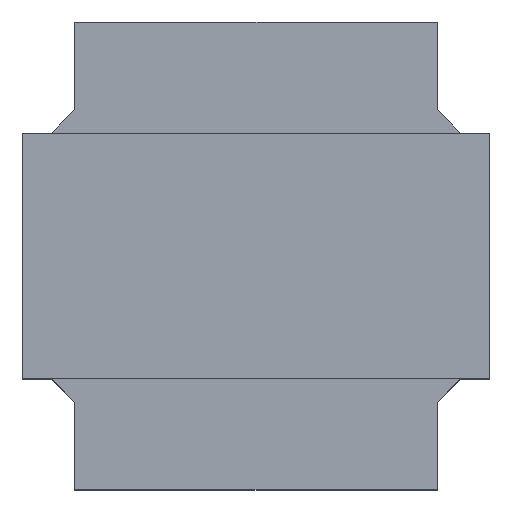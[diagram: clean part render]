
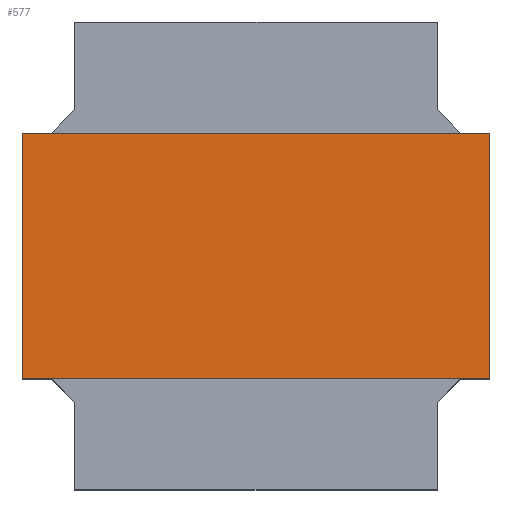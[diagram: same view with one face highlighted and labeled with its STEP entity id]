
A CAD part, top view. The second image highlights one B-rep face of the part: STEP entity #577.
In plain terms, the highlighted planar face has unit normal (0, 0, 1).
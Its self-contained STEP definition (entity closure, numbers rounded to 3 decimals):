
#1 = CARTESIAN_POINT ( 'NONE',  ( 0., 0., 1.675 ) ) ;
#24 = VERTEX_POINT ( 'NONE', #359 ) ;
#33 = DIRECTION ( 'NONE',  ( -1., 0., 0. ) ) ;
#68 = LINE ( 'NONE', #649, #608 ) ;
#83 = CARTESIAN_POINT ( 'NONE',  ( 1.55, -1.05, 1.675 ) ) ;
#89 = CARTESIAN_POINT ( 'NONE',  ( -2., 1.05, 1.675 ) ) ;
#92 = LINE ( 'NONE', #640, #628 ) ;
#101 = DIRECTION ( 'NONE',  ( 0., 0., 1. ) ) ;
#153 = EDGE_CURVE ( 'NONE', #208, #947, #92, .T. ) ;
#208 = VERTEX_POINT ( 'NONE', #1159 ) ;
#210 = VERTEX_POINT ( 'NONE', #643 ) ;
#237 = VECTOR ( 'NONE', #907, 1000. ) ;
#250 = ORIENTED_EDGE ( 'NONE', *, *, #772, .T. ) ;
#307 = DIRECTION ( 'NONE',  ( 1., 0., 0. ) ) ;
#313 = EDGE_CURVE ( 'NONE', #24, #208, #427, .T. ) ;
#335 = VERTEX_POINT ( 'NONE', #1150 ) ;
#349 = CARTESIAN_POINT ( 'NONE',  ( 1.75, -1.05, 1.675 ) ) ;
#359 = CARTESIAN_POINT ( 'NONE',  ( 2., -1.05, 1.675 ) ) ;
#362 = EDGE_CURVE ( 'NONE', #879, #400, #68, .T. ) ;
#400 = VERTEX_POINT ( 'NONE', #1169 ) ;
#425 = VECTOR ( 'NONE', #1030, 1000. ) ;
#427 = LINE ( 'NONE', #843, #948 ) ;
#472 = CARTESIAN_POINT ( 'NONE',  ( 1.75, 1.05, 1.675 ) ) ;
#485 = ORIENTED_EDGE ( 'NONE', *, *, #313, .T. ) ;
#493 = VECTOR ( 'NONE', #665, 1000. ) ;
#522 = LINE ( 'NONE', #83, #237 ) ;
#577 = ADVANCED_FACE ( 'NONE', ( #1038 ), #720, .T. ) ;
#608 = VECTOR ( 'NONE', #33, 1000. ) ;
#628 = VECTOR ( 'NONE', #1333, 1000. ) ;
#631 = EDGE_CURVE ( 'NONE', #335, #947, #743, .T. ) ;
#632 = ORIENTED_EDGE ( 'NONE', *, *, #153, .T. ) ;
#640 = CARTESIAN_POINT ( 'NONE',  ( 1.55, 1.05, 1.675 ) ) ;
#643 = CARTESIAN_POINT ( 'NONE',  ( -2., -1.05, 1.675 ) ) ;
#646 = EDGE_LOOP ( 'NONE', ( #250, #1273, #681, #485, #632, #747, #866, #711 ) ) ;
#649 = CARTESIAN_POINT ( 'NONE',  ( -1.75, -1.05, 1.675 ) ) ;
#665 = DIRECTION ( 'NONE',  ( -1., 0., 0. ) ) ;
#681 = ORIENTED_EDGE ( 'NONE', *, *, #1172, .T. ) ;
#708 = VECTOR ( 'NONE', #307, 1000. ) ;
#711 = ORIENTED_EDGE ( 'NONE', *, *, #1200, .T. ) ;
#720 = PLANE ( 'NONE',  #767 ) ;
#726 = CARTESIAN_POINT ( 'NONE',  ( -1.75, 1.05, 1.675 ) ) ;
#743 = LINE ( 'NONE', #726, #708 ) ;
#747 = ORIENTED_EDGE ( 'NONE', *, *, #631, .F. ) ;
#751 = VERTEX_POINT ( 'NONE', #1293 ) ;
#759 = VECTOR ( 'NONE', #811, 1000. ) ;
#767 = AXIS2_PLACEMENT_3D ( 'NONE', #1, #101, #832 ) ;
#772 = EDGE_CURVE ( 'NONE', #210, #400, #1229, .T. ) ;
#775 = CARTESIAN_POINT ( 'NONE',  ( -2., 1.05, 1.675 ) ) ;
#811 = DIRECTION ( 'NONE',  ( 0., -1., 0. ) ) ;
#832 = DIRECTION ( 'NONE',  ( -1., 0., 0. ) ) ;
#843 = CARTESIAN_POINT ( 'NONE',  ( 2., 1.05, 1.675 ) ) ;
#866 = ORIENTED_EDGE ( 'NONE', *, *, #1121, .T. ) ;
#879 = VERTEX_POINT ( 'NONE', #349 ) ;
#884 = CARTESIAN_POINT ( 'NONE',  ( -2., -1.05, 1.675 ) ) ;
#907 = DIRECTION ( 'NONE',  ( 1., 0., 0. ) ) ;
#944 = DIRECTION ( 'NONE',  ( 0., 1., 0. ) ) ;
#947 = VERTEX_POINT ( 'NONE', #472 ) ;
#948 = VECTOR ( 'NONE', #944, 1000. ) ;
#1030 = DIRECTION ( 'NONE',  ( 1., 0., 0. ) ) ;
#1038 = FACE_OUTER_BOUND ( 'NONE', #646, .T. ) ;
#1039 = LINE ( 'NONE', #775, #493 ) ;
#1121 = EDGE_CURVE ( 'NONE', #335, #751, #1039, .T. ) ;
#1150 = CARTESIAN_POINT ( 'NONE',  ( -1.75, 1.05, 1.675 ) ) ;
#1159 = CARTESIAN_POINT ( 'NONE',  ( 2., 1.05, 1.675 ) ) ;
#1169 = CARTESIAN_POINT ( 'NONE',  ( -1.75, -1.05, 1.675 ) ) ;
#1172 = EDGE_CURVE ( 'NONE', #879, #24, #522, .T. ) ;
#1200 = EDGE_CURVE ( 'NONE', #751, #210, #1284, .T. ) ;
#1229 = LINE ( 'NONE', #884, #425 ) ;
#1273 = ORIENTED_EDGE ( 'NONE', *, *, #362, .F. ) ;
#1284 = LINE ( 'NONE', #89, #759 ) ;
#1293 = CARTESIAN_POINT ( 'NONE',  ( -2., 1.05, 1.675 ) ) ;
#1333 = DIRECTION ( 'NONE',  ( -1., 0., 0. ) ) ;
